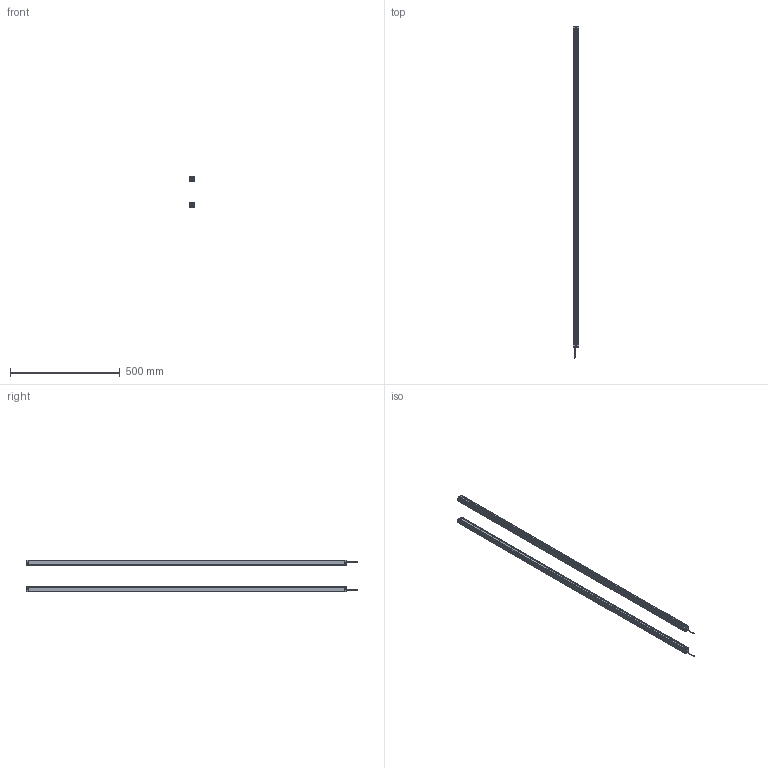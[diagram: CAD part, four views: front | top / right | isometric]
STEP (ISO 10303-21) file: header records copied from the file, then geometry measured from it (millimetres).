
FILE_DESCRIPTION (( 'STEP AP214' ), '1' );
FILE_NAME ('MTC7220.STEP', '2022-08-02T09:12:11', ( '' ), ( '' ), 'SwSTEP 2.0', 'SolidWorks 2018', '' );
FILE_SCHEMA (( 'AUTOMOTIVE_DESIGN' ));
Length unit declared in the file: millimetre
Products named in the file (5): P01^MTC; 噩砃P02^MTC; MTC waike^MTC; P02^MTC; MTC7220
Assembly tree (6 placements, depth 2):
  MTC7220
    MTC waike^MTC  x2
    P01^MTC  x2
    P02^MTC
    噩砃P02^MTC
Bounding box: 25 x 1512 x 141.4 mm (x, y, z)
Volume: 477591 mm3; surface area: 665897.7 mm2
Topology: 8 solids, 8 shells, 480 faces, 1396 edges, 924 vertices
Faces by surface type: plane 272, cylinder 208
Entity records: 10886 total; most frequent: DIRECTION 1881, CARTESIAN_POINT 1878, ORIENTED_EDGE 1846, EDGE_CURVE 923, AXIS2_PLACEMENT_3D 637, VERTEX_POINT 610, LINE 607, VECTOR 607
